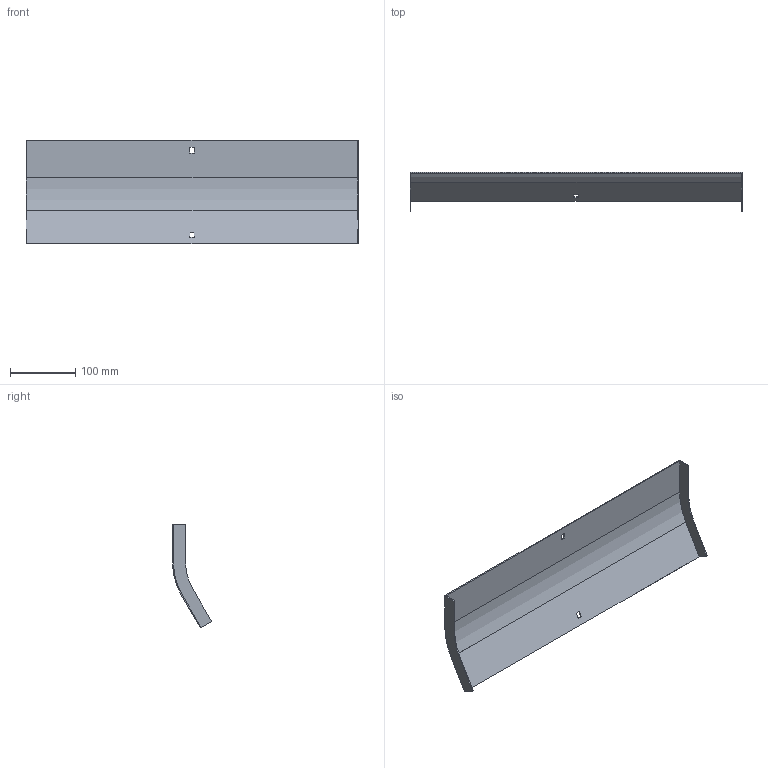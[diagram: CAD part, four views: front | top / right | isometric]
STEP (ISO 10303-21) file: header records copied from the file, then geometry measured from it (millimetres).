
FILE_DESCRIPTION (( 'STEP AP214' ), '1' );
FILE_NAME ('35G1D500.step', '2025-02-21T12:40:50', ( '' ), ( '' ), 'SwSTEP 2.0', 'SolidWorks 2023', '' );
FILE_SCHEMA (( 'AUTOMOTIVE_DESIGN' ));
Length unit declared in the file: millimetre
Products named in the file (1): 35G1D500
Bounding box: 507 x 59.87 x 158.79 mm (x, y, z)
Volume: 137072.8 mm3; surface area: 184965.3 mm2
Topology: 1 solids, 1 shells, 26 faces, 72 edges, 48 vertices
Faces by surface type: plane 22, cylinder 4
Entity records: 855 total; most frequent: CARTESIAN_POINT 147, ORIENTED_EDGE 144, DIRECTION 134, EDGE_CURVE 72, VECTOR 64, LINE 64, VERTEX_POINT 48, AXIS2_PLACEMENT_3D 35
